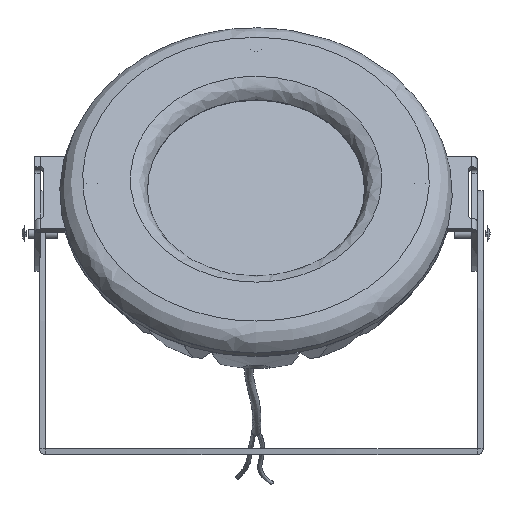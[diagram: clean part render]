
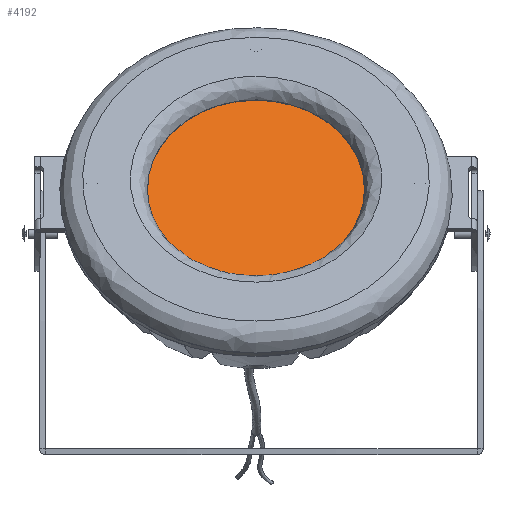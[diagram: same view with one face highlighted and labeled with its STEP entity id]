
A CAD part, left-side view. The second image highlights one B-rep face of the part: STEP entity #4192.
In plain terms, the highlighted planar face has unit normal (-0.818, 0, 0.575).
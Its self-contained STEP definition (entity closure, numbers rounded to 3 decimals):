
#541=FACE_OUTER_BOUND('',#798,.T.);
#798=EDGE_LOOP('',(#2891));
#1594=CIRCLE('',#4477,42.36);
#1748=VERTEX_POINT('',#7259);
#2188=EDGE_CURVE('',#1748,#1748,#1594,.T.);
#2891=ORIENTED_EDGE('',*,*,#2188,.F.);
#4094=PLANE('',#4479);
#4192=ADVANCED_FACE('',(#541),#4094,.T.);
#4477=AXIS2_PLACEMENT_3D('',#7260,#4837,#4838);
#4479=AXIS2_PLACEMENT_3D('',#7264,#4842,#4843);
#4837=DIRECTION('center_axis',(0.818,0.,-0.575));
#4838=DIRECTION('ref_axis',(0.,1.,0.));
#4842=DIRECTION('center_axis',(-0.818,0.,
0.575));
#4843=DIRECTION('ref_axis',(0.575,0.,0.818));
#7259=CARTESIAN_POINT('',(-1375.058,-1465.365,590.435));
#7260=CARTESIAN_POINT('Origin',(-1375.058,-1507.725,590.435));
#7264=CARTESIAN_POINT('Origin',(-1375.058,-1507.725,590.435));
